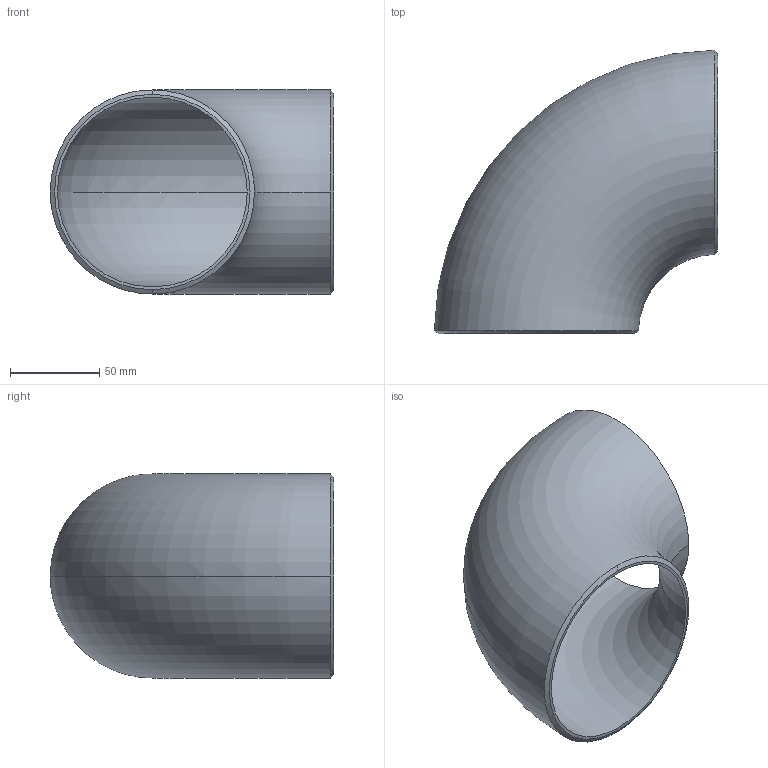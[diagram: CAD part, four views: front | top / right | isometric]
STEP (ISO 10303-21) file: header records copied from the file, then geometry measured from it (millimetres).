
FILE_DESCRIPTION (( 'STEP AP214' ), '1' );
FILE_NAME ('Elbow-short-90deg_Sch20S-100A.STEP', '2022-06-28T07:37:35', ( 'ASIS User' ), ( 'ASIS User' ), 'SwSTEP 2.0', 'SolidWorks 2022', '' );
FILE_SCHEMA (( 'AUTOMOTIVE_DESIGN' ));
Length unit declared in the file: millimetre
Products named in the file (1): Elbow-short-90deg_Sch20S-100A
Bounding box: 158.74 x 158.74 x 114.3 mm (x, y, z)
Volume: 219903.6 mm3; surface area: 112592.5 mm2
Topology: 1 solids, 1 shells, 10 faces, 24 edges, 16 vertices
Faces by surface type: torus 4, cone 4, plane 2
Entity records: 601 total; most frequent: CARTESIAN_POINT 330, DIRECTION 50, ORIENTED_EDGE 48, EDGE_CURVE 24, AXIS2_PLACEMENT_3D 23, VERTEX_POINT 16, EDGE_LOOP 12, CIRCLE 12
